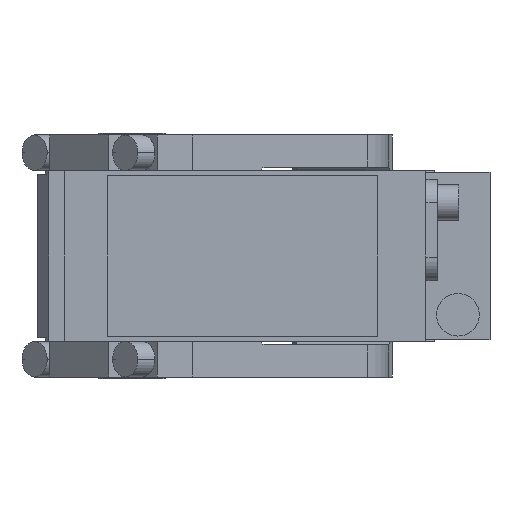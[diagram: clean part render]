
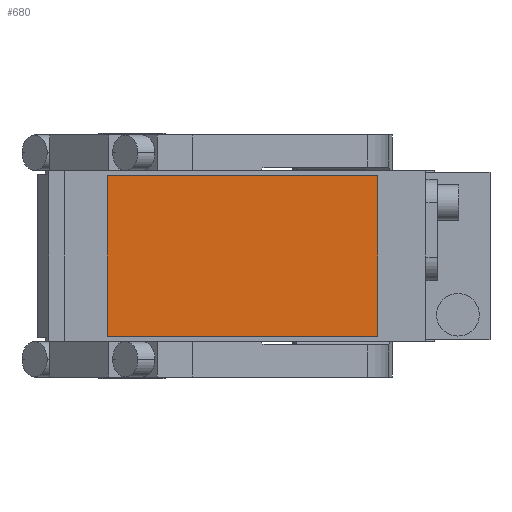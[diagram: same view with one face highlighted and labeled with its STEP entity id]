
A CAD part, front view. The second image highlights one B-rep face of the part: STEP entity #680.
In plain terms, the highlighted planar face has unit normal (0, -1, 0).
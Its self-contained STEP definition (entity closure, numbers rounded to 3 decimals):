
#263 = CARTESIAN_POINT ( 'NONE',  ( -7., -280.5, 22.5 ) ) ;
#348 = LINE ( 'NONE', #565, #771 ) ;
#565 = CARTESIAN_POINT ( 'NONE',  ( -7., -280.5, -22.5 ) ) ;
#680 = ADVANCED_FACE ( 'NONE', ( #2281 ), #4209, .T. ) ;
#771 = VECTOR ( 'NONE', #12456, 1000. ) ;
#1415 = CARTESIAN_POINT ( 'NONE',  ( 0., -280.5, 0. ) ) ;
#2281 = FACE_OUTER_BOUND ( 'NONE', #13025, .T. ) ;
#2720 = VECTOR ( 'NONE', #3398, 1000. ) ;
#2865 = CARTESIAN_POINT ( 'NONE',  ( 69., -280.5, -22.5 ) ) ;
#3170 = VERTEX_POINT ( 'NONE', #2865 ) ;
#3316 = EDGE_CURVE ( 'NONE', #5755, #6843, #7734, .T. ) ;
#3398 = DIRECTION ( 'NONE',  ( -1., 0., 0. ) ) ;
#3529 = ORIENTED_EDGE ( 'NONE', *, *, #12462, .T. ) ;
#3844 = AXIS2_PLACEMENT_3D ( 'NONE', #1415, #7819, #4476 ) ;
#4209 = PLANE ( 'NONE',  #3844 ) ;
#4324 = ORIENTED_EDGE ( 'NONE', *, *, #7146, .T. ) ;
#4465 = VERTEX_POINT ( 'NONE', #11525 ) ;
#4476 = DIRECTION ( 'NONE',  ( 0., 0., -1. ) ) ;
#5015 = LINE ( 'NONE', #12562, #6328 ) ;
#5712 = CARTESIAN_POINT ( 'NONE',  ( 69., -280.5, 22.5 ) ) ;
#5755 = VERTEX_POINT ( 'NONE', #5712 ) ;
#5796 = CARTESIAN_POINT ( 'NONE',  ( -7., -280.5, 22.5 ) ) ;
#6328 = VECTOR ( 'NONE', #6472, 1000. ) ;
#6472 = DIRECTION ( 'NONE',  ( 0., 0., 1. ) ) ;
#6843 = VERTEX_POINT ( 'NONE', #263 ) ;
#6914 = ORIENTED_EDGE ( 'NONE', *, *, #3316, .T. ) ;
#7146 = EDGE_CURVE ( 'NONE', #3170, #5755, #5015, .T. ) ;
#7734 = LINE ( 'NONE', #5796, #2720 ) ;
#7808 = EDGE_CURVE ( 'NONE', #4465, #3170, #348, .T. ) ;
#7819 = DIRECTION ( 'NONE',  ( 0., -1., 0. ) ) ;
#8741 = LINE ( 'NONE', #9727, #10160 ) ;
#9364 = ORIENTED_EDGE ( 'NONE', *, *, #7808, .T. ) ;
#9727 = CARTESIAN_POINT ( 'NONE',  ( -7., -280.5, 22.5 ) ) ;
#10160 = VECTOR ( 'NONE', #13090, 1000. ) ;
#11525 = CARTESIAN_POINT ( 'NONE',  ( -7., -280.5, -22.5 ) ) ;
#12456 = DIRECTION ( 'NONE',  ( 1., 0., 0. ) ) ;
#12462 = EDGE_CURVE ( 'NONE', #6843, #4465, #8741, .T. ) ;
#12562 = CARTESIAN_POINT ( 'NONE',  ( 69., -280.5, 22.5 ) ) ;
#13025 = EDGE_LOOP ( 'NONE', ( #3529, #9364, #4324, #6914 ) ) ;
#13090 = DIRECTION ( 'NONE',  ( 0., 0., -1. ) ) ;
